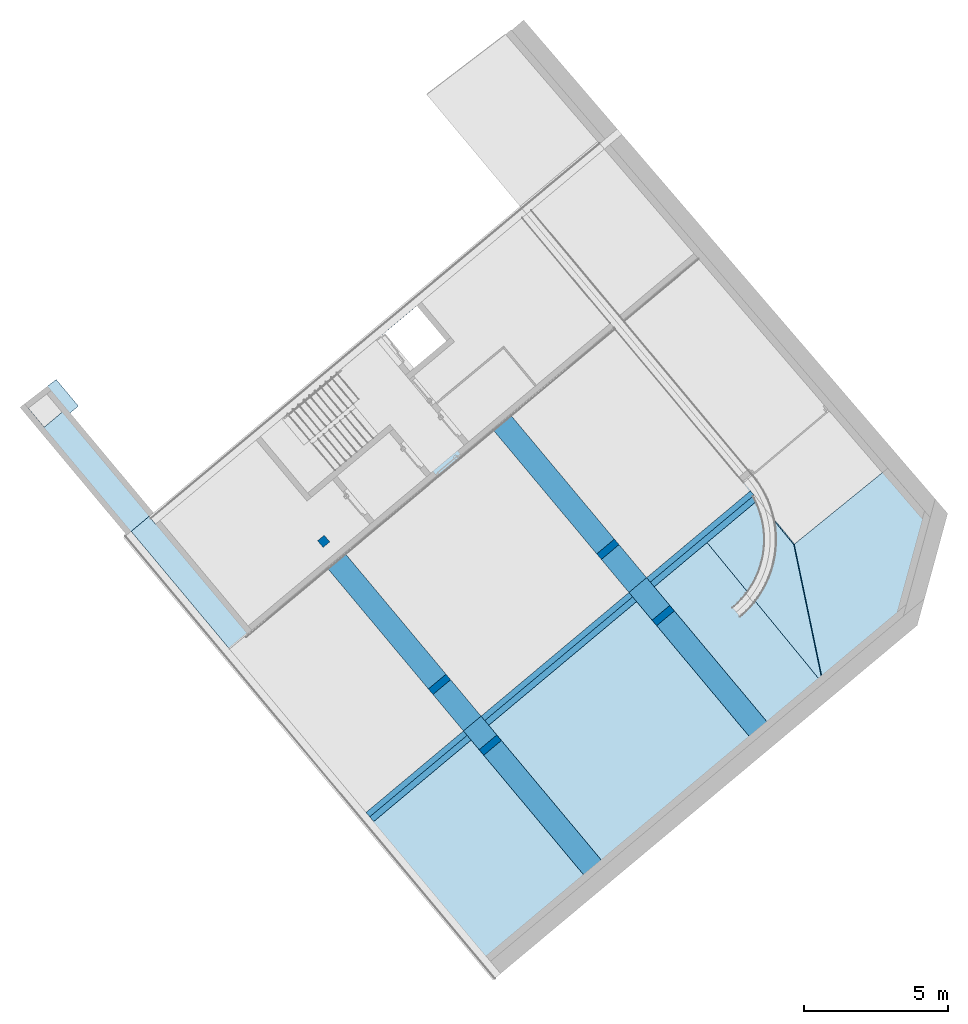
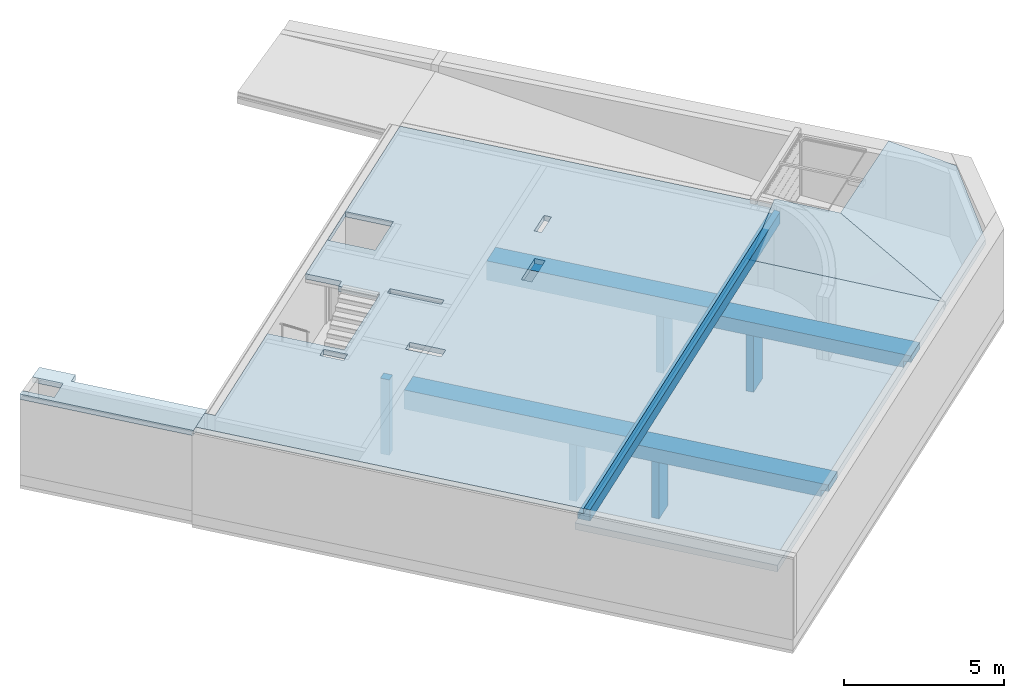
# One storey, part 3 of 14: 5 beams, 5 columns, 5 slabs.
"""IFC4 building model written with IfcOpenShell, lengths in metres."""

from ifc_helpers import new_model, entity, si_unit, converted_unit, derived_unit, direction, frame, origin_with_axes, place, context, subcontext, project, spatial, polygons, material, type_object, element, save


model = new_model("IFC4")

# Units and contexts
model_context = context("Model", 3, precision=1e-05, world=origin_with_axes(), true_north=direction((0.0, 1.0)))
body_context = subcontext(model_context, "Body", "Model", "MODEL_VIEW")
ifc_project = project(units=[si_unit("LENGTHUNIT", "METRE"), si_unit("AREAUNIT", "SQUARE_METRE"), si_unit("VOLUMEUNIT", "CUBIC_METRE"), converted_unit("PLANEANGLEUNIT", "DEGREE", entity("IfcPlaneAngleMeasure", 0.0174532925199), si_unit("PLANEANGLEUNIT", "RADIAN"), dimensions=[0, 0, 0, 0, 0, 0, 0]), converted_unit("TIMEUNIT", "Year", entity("IfcTimeMeasure", 31556926.0), si_unit("TIMEUNIT", "SECOND"), dimensions=[0, 0, 1, 0, 0, 0, 0]), si_unit("MASSUNIT", "GRAM", prefix="KILO"), si_unit("THERMODYNAMICTEMPERATUREUNIT", "DEGREE_CELSIUS"), si_unit("LUMINOUSINTENSITYUNIT", "LUMEN"), si_unit("ENERGYUNIT", "JOULE", prefix="MEGA"), derived_unit("THERMALCONDUCTANCEUNIT", [(si_unit("POWERUNIT", "WATT"), 1), (si_unit("LENGTHUNIT", "METRE"), -1), (si_unit("THERMODYNAMICTEMPERATUREUNIT", "KELVIN"), -1)]), derived_unit("SPECIFICHEATCAPACITYUNIT", [(si_unit("ENERGYUNIT", "JOULE"), 1), (si_unit("MASSUNIT", "GRAM", prefix="KILO"), -1), (si_unit("THERMODYNAMICTEMPERATUREUNIT", "KELVIN"), -1)]), derived_unit("MASSDENSITYUNIT", [(si_unit("MASSUNIT", "GRAM", prefix="KILO"), 1), (si_unit("VOLUMEUNIT", "CUBIC_METRE"), -1)])], contexts=[model_context])

# Site, building, storey
site_placement = place(None, frame((-0.00153261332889, -0.00661245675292, 0.0), z_axis=(0.0, 0.0, 1.0), x_axis=(1.0, 0.0, 0.0)))
site = spatial("IfcSite", under=ifc_project, at=site_placement, Name="Gelände", CompositionType="ELEMENT")
building_placement = place(site_placement, origin_with_axes())
building = spatial("IfcBuilding", under=site, at=building_placement, Name="Gebäude", CompositionType="ELEMENT")
storey_placement = place(building_placement, frame((0.0, 0.0, -3.3), z_axis=(0.0, 0.0, 1.0), x_axis=(1.0, 0.0, 0.0)))
storey = spatial("IfcBuildingStorey", under=building, at=storey_placement, Name="UG1", CompositionType="ELEMENT", Elevation=-3.3)

# Column
ifc_material_1 = material(Name="Stahlbeton")
column_type_1 = type_object("IfcColumnType", Name="Stahlbeton 300 x 300", PredefinedType="NOTDEFINED")
column_1_placement = place(storey_placement, frame((-1.63477953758, 18.8877031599, 0.0), z_axis=(0.0, 0.0, 1.0), x_axis=(-0.76736585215, -0.641209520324, 0.0)))
element("IfcColumn", 1, at=column_1_placement, inside=storey, type_object=column_type_1, material=ifc_material_1, Name="Stütze-002", PredefinedType="NOTDEFINED", context=body_context, shape_type="Tessellation", body=[
    polygons([(0.15, -0.15, 2.88), (-0.15, -0.15, 2.88), (-0.15, -0.15, 0.0), (0.15, -0.15, 0.0), (0.15, 0.15, 2.88), (-0.15, 0.15, 2.88), (-0.15, 0.15, 0.0), (0.15, 0.15, 0.0)], [[[1, 2, 3, 4]], [[5, 6, 2, 1]], [[2, 6, 7, 3]], [[8, 4, 3, 7]], [[5, 1, 4, 8]], [[6, 5, 8, 7]]], closed=True),
])

# Space
space_1_placement = place(storey_placement, frame((-11.8951769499, 23.5097960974, 0.0), z_axis=(0.0, 0.0, 1.0), x_axis=(0.641209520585, -0.767365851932, 0.0)))
space_1 = spatial("IfcSpace", under=storey, at=space_1_placement, CompositionType="ELEMENT", PredefinedType="NOTDEFINED")

# Columns
ifc_material_2 = material(Name="Stahlbeton Wand")
column_type_2 = type_object("IfcColumnType", Name="Stahlbeton Wand 250", PredefinedType="NOTDEFINED")
column_2_placement = place(space_1_placement, frame((16.6415270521, 4.41078857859, 0.0), z_axis=(0.0, 0.0, 1.0), x_axis=(0.0, 1.0, 0.0)))
element("IfcColumn", 2, at=column_2_placement, inside=space_1, type_object=column_type_2, material=ifc_material_2, Name="Wand-003", PredefinedType="NOTDEFINED", context=body_context, shape_type="Tessellation", body=[
    polygons([(0.0, 0.25, 0.0), (0.798804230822, 0.25, 0.0), (0.798804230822, 0.0, 0.0), (0.0, 0.0, 0.0), (0.0, 0.25, 2.1499999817), (0.798804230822, 0.25, 2.1499999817), (0.798804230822, 0.0, 2.1499999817), (0.0, 0.0, 2.1499999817)], [[[1, 2, 3, 4]], [[5, 6, 2, 1]], [[3, 2, 6, 7]], [[4, 3, 7, 8]], [[5, 1, 4, 8]], [[8, 7, 6, 5]]], closed=True),
])
for number, where, z_axis, x_axis, name in (
    (3, (16.7920264, 11.9059868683, 0.0), (0.0, 0.0, 1.0), (0.0, 1.0, 0.0), "Wand-005"),
    (4, (19.7904364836, 11.9059868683, 0.0), (0.0, 0.0, 1.0), (0.0, 1.0, 0.0), "Wand-004"),
):
    element("IfcColumn", number, at=place(space_1_placement, frame(where, z_axis=z_axis, x_axis=x_axis)), inside=space_1, type_object=column_type_2, material=ifc_material_2, Name=name, PredefinedType="NOTDEFINED", context=body_context, shape_type="Tessellation", body=[
        polygons([(0.0, 0.25, 0.0), (0.800458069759, 0.25, 0.0), (0.800458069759, 0.0, 0.0), (0.0, 0.0, 0.0), (0.0, 0.25, 2.15), (0.800458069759, 0.25, 2.15), (0.800458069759, 0.0, 2.15), (0.0, 0.0, 2.15)], [[[1, 2, 3, 4]], [[5, 6, 2, 1]], [[3, 2, 6, 7]], [[4, 3, 7, 8]], [[5, 1, 4, 8]], [[8, 7, 6, 5]]], closed=True),
    ])
column_3_placement = place(space_1_placement, frame((19.3918612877, 4.41078857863, 0.0), z_axis=(0.0, 0.0, 1.0), x_axis=(0.0, 1.0, 0.0)))
element("IfcColumn", 5, at=column_3_placement, inside=space_1, type_object=column_type_2, material=ifc_material_2, Name="Wand-002", PredefinedType="NOTDEFINED", context=body_context, shape_type="Tessellation", body=[
    polygons([(0.0, 0.25, 0.0), (0.798804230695, 0.25, 0.0), (0.798804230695, 0.0, 0.0), (0.0, 0.0, 0.0), (0.0, 0.25, 2.15), (0.798804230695, 0.25, 2.15), (0.798804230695, 0.0, 2.15), (0.0, 0.0, 2.15)], [[[1, 2, 3, 4]], [[5, 6, 2, 1]], [[3, 2, 6, 7]], [[4, 3, 7, 8]], [[5, 1, 4, 8]], [[8, 7, 6, 5]]], closed=True),
])

# Beams
beam_type_1 = type_object("IfcBeamType", Name="Stahlbeton 800 x 730", PredefinedType="NOTDEFINED")
beam_1_placement = place(space_1_placement, frame((18.2857067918, 12.3059868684, 2.88), z_axis=(0.0, 0.0, 1.0), x_axis=(0.0, 1.0, 0.0)))
element("IfcBeam", 6, at=beam_1_placement, inside=space_1, type_object=beam_type_1, material=ifc_material_1, Name="Träger-001", PredefinedType="NOTDEFINED", context=body_context, shape_type="Tessellation", body=[
    polygons([(0.4, 7.38630870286, -0.73), (0.4, 7.38630870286, 0.0), (0.4, 0.000254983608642, 0.0), (0.4, 0.000254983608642, -0.22999918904), (0.4, 0.0, -0.22999918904), (0.4, 0.0, -0.73), (-0.4, 7.38630870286, 0.0), (-0.4, 7.38630870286, -0.73), (-0.4, 0.0, 0.0), (0.00778880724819, 0.0, 0.0), (0.00778880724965, 0.0, -0.22999918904), (-0.4, 0.0, -0.73)], [[[1, 2, 3, 4, 5, 6]], [[7, 2, 1, 8]], [[7, 9, 10, 3, 2]], [[10, 11, 4, 3]], [[5, 4, 11]], [[6, 5, 11, 10, 9, 12]], [[1, 6, 12, 8]], [[8, 12, 9, 7]]], closed=True),
])
beam_2_placement = place(space_1_placement, frame((18.29061138, 4.81082034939, 2.88), z_axis=(0.0, 0.0, 1.0), x_axis=(0.0, 1.0, 0.0)))
element("IfcBeam", 7, at=beam_2_placement, inside=space_1, type_object=beam_type_1, material=ifc_material_1, Name="Träger-001", PredefinedType="NOTDEFINED", context=body_context, shape_type="Tessellation", body=[
    polygons([(0.4, 7.39121329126, -0.730000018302), (0.4, 7.39121329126, 0.0), (0.4, 0.000286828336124, 0.0), (0.4, 0.000286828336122, -0.22999918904), (0.4, 0.0, -0.22999918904), (0.4, 0.0, -0.730000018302), (-0.4, 7.39121329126, 0.0), (-0.4, 7.39121329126, -0.730000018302), (-0.4, 0.0, 0.0), (-0.0411941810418, 0.0, 0.0), (-0.041194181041, 0.0, -0.22999918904), (-0.4, 0.0, -0.730000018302)], [[[1, 2, 3, 4, 5, 6]], [[7, 2, 1, 8]], [[7, 9, 10, 3, 2]], [[10, 11, 4, 3]], [[5, 4, 11]], [[6, 5, 11, 10, 9, 12]], [[1, 6, 12, 8]], [[8, 12, 9, 7]]], closed=True),
])
beam_type_2 = type_object("IfcBeamType", Name="Stahlbeton 800 x 500", PredefinedType="NOTDEFINED")
beam_3_placement = place(space_1_placement, frame((18.29061138, 4.81082034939, 2.65), z_axis=(0.0, 0.0, 1.0), x_axis=(8.68124266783e-05, -0.999999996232, 0.0)))
element("IfcBeam", 8, at=beam_3_placement, inside=space_1, type_object=beam_type_2, material=ifc_material_1, Name="Träger-001", PredefinedType="NOTDEFINED", context=body_context, shape_type="Tessellation", body=[
    polygons([(0.4, 6.7439623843, 0.0), (0.4, 6.7439623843, -0.25), (-0.4, 6.7439623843, -0.25), (-0.4, 6.7439623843, 0.0), (0.4, 6.49399202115, -0.5), (0.4, 6.49399202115, -0.25), (0.4, 0.0, 0.0), (0.4, 0.0, -0.5), (-0.4, 6.49399035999, -0.25), (-0.4, 6.49399035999, -0.5), (-0.4, 0.0, -0.5), (-0.4, 0.0, 0.0)], [[[1, 2, 3, 4]], [[5, 6, 2, 1, 7, 8]], [[6, 9, 3, 2]], [[3, 9, 10, 11, 12, 4]], [[12, 7, 1, 4]], [[5, 10, 9, 6]], [[7, 12, 11, 8]], [[11, 10, 5, 8]]], closed=True),
])
beam_4_placement = place(space_1_placement, frame((18.2857067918, 12.3059868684, 2.65), z_axis=(0.0, 0.0, 1.0), x_axis=(8.68124274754e-05, -0.999999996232, 0.0)))
element("IfcBeam", 9, at=beam_4_placement, inside=space_1, type_object=beam_type_2, material=ifc_material_1, Name="Träger-002", PredefinedType="NOTDEFINED", context=body_context, shape_type="Tessellation", body=[
    polygons([(0.4, 6.74821629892, 0.0), (0.4, 6.74821629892, -0.25), (-0.4, 6.74821629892, -0.25), (-0.4, 6.74821629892, 0.0), (0.4, 6.49823037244, -0.5), (0.4, 6.49823037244, -0.25), (0.4, 0.0, 0.0), (0.4, 0.0, -0.5), (-0.4, 6.49822871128, -0.25), (-0.4, 6.49822871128, -0.5), (-0.4, 0.0, -0.5), (-0.4, 0.0, 0.0)], [[[1, 2, 3, 4]], [[5, 6, 2, 1, 7, 8]], [[6, 9, 3, 2]], [[3, 9, 10, 11, 12, 4]], [[12, 7, 1, 4]], [[5, 10, 9, 6]], [[7, 12, 11, 8]], [[11, 10, 5, 8]]], closed=True),
])
beam_type_3 = type_object("IfcBeamType", Name="Stahlbeton 415 x 430", PredefinedType="NOTDEFINED")
beam_5_placement = place(space_1_placement, frame((18.5013747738, -0.249999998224, 3.08000081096), z_axis=(0.0, 0.0, 1.0), x_axis=(0.999999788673, 0.000650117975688, 0.0)))
element("IfcBeam", 10, at=beam_5_placement, inside=space_1, type_object=beam_type_3, material=ifc_material_1, Name="Träger-001", PredefinedType="NOTDEFINED", context=body_context, shape_type="Tessellation", body=[
    polygons([(-0.0492401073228, 17.6582797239, -0.43), (-0.0492401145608, 17.6582797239, -0.20000081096), (-0.00720813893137, 17.6582797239, -0.20000081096), (-0.00720813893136, 17.6582797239, -8.10960177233e-07), (-0.0068952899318, 17.6582797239, 0.0), (-0.00689529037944, 17.6582797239, -0.43), (-0.2075, 17.6577492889, -0.43), (-0.2075, 17.657749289, -0.20000081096), (-0.00752762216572, 0.25000494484, -0.20000081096), (-0.2075, 16.8821398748, -0.20000081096), (-0.207245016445, 12.9561243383, -0.20000081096), (-0.2075, 12.9561245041, -0.20000081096), (-0.2075, 0.250134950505, -0.20000081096), (-0.00752762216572, 0.25000494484, -8.10960177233e-07), (0.2075, 0.249865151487, -8.10960177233e-07), (0.2075, 17.5557159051, 0.0), (0.136256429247, 17.5746731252, 0.0), (-0.00689525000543, 17.6041304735, 0.0), (-0.00689525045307, 17.6041304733, -0.43), (0.136256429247, 17.5746731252, -0.43), (0.2075, 17.5557159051, -0.43), (0.2075, 0.249865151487, -0.43), (-0.2075, 0.250134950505, -0.43), (-0.2075, 16.8821398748, -0.32000081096), (-0.2075, 12.9561245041, -0.32000081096), (-0.207245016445, 12.9561243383, -0.32000081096)], [[[1, 2, 3, 4, 5, 6]], [[7, 8, 2, 1]], [[9, 3, 2, 8, 10, 11, 12, 13]], [[9, 14, 4, 3]], [[5, 4, 14, 15, 16, 17, 18]], [[19, 6, 5, 18]], [[1, 6, 19, 20, 21, 22, 23, 7]], [[24, 10, 8, 7, 23, 13, 12, 25]], [[26, 11, 10, 24]], [[25, 12, 11, 26]], [[14, 9, 13, 23, 22, 15]], [[16, 15, 22, 21]], [[16, 21, 20, 17]], [[20, 19, 18, 17]], [[25, 26, 24]]], closed=True),
])

# Slab
ifc_material_3 = material(Name="Stahlbeton Decke Garage")
slab_type_1 = type_object("IfcSlabType", Name="Stahlbeton Decke Garage 200", PredefinedType="NOTDEFINED")
slab_1_placement = place(space_1_placement, frame((18.4823670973, 17.4084108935, 3.27691467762), z_axis=(0.0, 0.0, 1.0), x_axis=(0.999963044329, -0.00859709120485, 0.0)))
element("IfcSlab", 11, at=slab_1_placement, inside=space_1, type_object=slab_type_1, material=ifc_material_3, Name="Dach-001", PredefinedType="NOTDEFINED", context=body_context, shape_type="Tessellation", body=[
    polygons([(2.19444917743, -0.0267885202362, 0.00308532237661), (0.295632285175, 0.00372487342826, 0.00308532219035), (0.672225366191, 0.0084698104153, 0.00308532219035), (2.17953045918, 0.00847681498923, 0.00308532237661), (2.19954904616, -0.00245775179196, 0.00308532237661), (2.19942336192, -0.0267885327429, 0.00308532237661), (2.19444917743, -0.0267885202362, -0.00975022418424), (0.000554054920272, 0.0084666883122, 0.00308532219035), (0.000480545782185, 6.06760331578e-06, 0.0510817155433), (0.296006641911, 0.00372958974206, 0.0299584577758), (0.000623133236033, 7.86452100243e-06, 0.00308532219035), (2.1994233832, -0.0267885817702, 0.203085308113), (2.19955144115, -0.00199411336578, -0.000725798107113), (6.57144970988, -2.31334849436, -0.629154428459), (6.57182955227, -2.28868569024, -0.833013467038), (2.19942336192, -0.0267885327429, -0.0097502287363), (6.57144970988, -2.31334849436, -0.841989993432), (0.000247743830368, -0.0267885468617, 0.203085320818), (0.0216474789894, -2.27230535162, -0.827051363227), (0.02105233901, -2.27230162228, -0.626914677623), (0.0213375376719, -2.30719480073, -0.626914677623), (5.5894226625, -2.30719480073, -0.626914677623), (6.57287326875, -2.40887025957, -0.87675707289), (6.57227630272, -2.40886647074, -0.87675569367), (6.57286829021, -2.47727433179, -0.688818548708)], [[[1, 2, 3, 4, 5, 6]], [[7, 8, 2, 1]], [[9, 10, 3, 2, 11]], [[4, 3, 10, 12]], [[13, 5, 4, 12, 14, 15]], [[13, 16, 6, 5]], [[7, 1, 6, 16]], [[8, 7, 17]], [[11, 2, 8]], [[12, 10, 9, 18]], [[9, 11, 8, 19, 20, 21, 18]], [[22, 14, 12, 18, 21]], [[15, 14, 23]], [[17, 7, 16, 13, 15, 23, 24]], [[19, 8, 17]], [[22, 20, 19, 17, 14]], [[20, 22, 21]], [[25, 23, 14]], [[23, 25, 24]], [[25, 14, 17, 24]]], closed=True),
])

# Space
space_2_placement = place(storey_placement, frame((1.94844643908, 34.4071819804, 0.0), z_axis=(0.0, 0.0, 1.0), x_axis=(0.6411378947, -0.767425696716, 0.0)))
space_2 = spatial("IfcSpace", under=storey, at=space_2_placement, CompositionType="ELEMENT", PredefinedType="NOTDEFINED")

# Slabs
slab_2_placement = place(space_2_placement, frame((20.162955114, -0.191554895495, 3.27691467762), z_axis=(0.0, 0.0, 1.0), x_axis=(0.0148508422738, 0.999889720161, 0.0)))
element("IfcSlab", 12, at=slab_2_placement, inside=space_2, type_object=slab_type_1, material=ifc_material_3, Name="Dach-001", PredefinedType="NOTDEFINED", context=body_context, shape_type="Tessellation", body=[
    polygons([(4.22278656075, -2.25729859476, -0.226996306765), (4.15409130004, -1.44520999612e-08, 0.203606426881), (-0.0544116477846, -0.0049740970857, 0.202657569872), (-0.0564074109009, -0.00858539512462, 0.201968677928), (-2.31317416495, -4.39142628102, -0.634102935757), (1.33197501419, -4.3366299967, -0.623649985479), (4.22278656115, -2.25729859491, -0.430602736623), (4.15409130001, -1.40694904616e-08, -2.87352114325e-09), (-0.0284561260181, -0.00494342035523, -0.000943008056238), (-0.0544116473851, -0.00497409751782, 0.201593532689), (-2.28689475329, -4.39103123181, -0.837634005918), (1.33197501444, -4.33662999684, -0.827256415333)], [[[1, 2, 3, 4, 5, 6]], [[2, 1, 7, 8]], [[3, 2, 8, 9, 10]], [[4, 3, 10]], [[5, 4, 10, 9, 11]], [[6, 5, 11, 12]], [[1, 6, 12, 7]], [[8, 7, 12, 11, 9]]], closed=True),
])
slab_type_2 = type_object("IfcSlabType", Name="Stahlbeton Decke Garage 250", PredefinedType="NOTDEFINED")
slab_3_placement = place(space_1_placement, frame((18.2838532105, 15.1389856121, 2.4), z_axis=(0.0, 0.0, 1.0), x_axis=(0.999889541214, -0.0148628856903, 0.0)))
element("IfcSlab", 13, at=slab_3_placement, inside=space_1, type_object=slab_type_2, material=ifc_material_3, Name="Dach-001", PredefinedType="NOTDEFINED", context=body_context, shape_type="Tessellation", body=[
    polygons([(6.97867371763, -15.2869510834, 0.0), (6.75200344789, -0.0955109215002, 0.0), (6.75200344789, -0.0955109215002, 0.000158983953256), (6.75057833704, 0.0, 0.0349246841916), (6.75057833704, 0.0, 0.25), (6.97867371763, -15.2869510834, 0.25), (0.20064726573, 0.0, 0.0), (0.202121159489, -0.0949784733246, 0.0), (0.238793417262, -15.3871360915, 0.0), (0.0, 0.0, 0.0), (0.202121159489, -0.0949784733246, 0.0152911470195), (0.200647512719, 0.0, 0.0498633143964), (0.0, 0.0, 0.25), (0.238793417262, -15.3871360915, 0.25)], [[[1, 2, 3, 4, 5, 6]], [[7, 8, 2, 1, 9, 10]], [[11, 3, 2, 8]], [[11, 12, 4, 3]], [[4, 12, 7, 10, 13, 5]], [[6, 5, 13, 14]], [[6, 14, 9, 1]], [[8, 7, 12, 11]], [[14, 13, 10, 9]]], closed=True),
])
ifc_material_4 = material(Name="Stahlbeton Decke")
slab_type_3 = type_object("IfcSlabType", Name="Stahlbeton Decke 200", PredefinedType="NOTDEFINED")
slab_4_placement = place(storey_placement, frame((-8.51395356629, 19.0734375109, 3.08), z_axis=(0.0, 0.0, 1.0), x_axis=(1.0, 0.0, 0.0)))
element("IfcSlab", 14, at=slab_4_placement, inside=storey, type_object=slab_type_3, material=ifc_material_4, Name="Decke-005", PredefinedType="NOTDEFINED", context=body_context, shape_type="Tessellation", body=[
    polygons([(8.47710326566, -9.75506346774, -0.2), (21.943415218, 1.51181785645, -0.2), (21.943415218, 1.51181785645, 0.0), (8.47710326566, -9.75506346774, 0.0), (21.741745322, 1.81967592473, -0.2), (21.8486546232, 1.66606491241, -0.2), (0.191841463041, 0.160302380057, -0.2), (0.813788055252, 0.679999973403, -0.2), (1.03821138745, 0.411421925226, -0.2), (4.68289138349, 3.45690628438, -0.2), (6.32388414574, 1.49305239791, -0.2), (8.77184149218, 3.53856113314, -0.2), (7.89989841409, 4.58206954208, -0.2), (8.1154056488, 4.76212823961, -0.2), (7.34640143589, 5.6825277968, -0.2), (13.9258756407, 11.1803179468, -0.2), (15.2886586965, 9.5496424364, -0.2), (21.6202657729, 1.97199386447, -0.2), (21.6201061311, 1.97186047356, -0.2), (6.28903474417, 1.22284780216, -0.2), (5.77902880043, 1.83319610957, -0.2), (5.50617239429, 1.60519778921, -0.2), (6.01628626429, 0.99472032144, -0.2), (8.29737222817, 0.815713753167, -0.2), (7.9940574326, 0.562264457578, -0.2), (8.76343124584, -0.358481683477, -0.2), (9.06674604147, -0.105032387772, -0.2), (10.1198161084, 7.99498176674, -0.2), (8.85386013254, 6.93715123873, -0.2), (9.87674183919, 5.71183902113, -0.2), (11.1432789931, 6.77015518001, -0.2), (9.22699471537, 3.65831940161, -0.2), (9.03855095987, 3.5007912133, -0.2), (10.1935232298, 2.11858110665, -0.2), (10.381417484, 2.27543386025, -0.2), (14.1913965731, 2.55213565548, -0.2), (13.9666052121, 2.8211541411, -0.2), (13.02874317, 2.03747831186, -0.2), (13.2529145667, 1.76894290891, -0.2), (15.3941765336, 4.7091117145, -0.2), (14.7058685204, 4.13396278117, -0.2), (14.8650352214, 3.94348043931, -0.2), (15.5528871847, 4.51824829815, -0.2), (21.8486546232, 1.66606491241, 0.0), (21.741745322, 1.81967592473, 0.0), (21.6201061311, 1.97186047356, 0.0), (21.6202657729, 1.97199386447, 0.0), (15.2886586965, 9.5496424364, 0.0), (13.9258756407, 11.1803179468, 0.0), (7.34640143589, 5.6825277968, 0.0), (8.1154056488, 4.76212823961, 0.0), (7.89989841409, 4.58206954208, 0.0), (8.77184149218, 3.53856113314, 0.0), (6.32388414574, 1.49305239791, 0.0), (4.68289138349, 3.45690628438, 0.0), (1.03821138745, 0.411421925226, 0.0), (0.813788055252, 0.679999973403, 0.0), (0.191841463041, 0.160302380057, 0.0), (6.28903474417, 1.22284780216, 0.0), (6.01628626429, 0.99472032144, 0.0), (5.50617239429, 1.60519778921, 0.0), (5.77902880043, 1.83319610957, 0.0), (8.29737222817, 0.815713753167, 0.0), (9.06674604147, -0.105032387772, 0.0), (8.76343124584, -0.358481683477, 0.0), (7.9940574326, 0.562264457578, 0.0), (10.1198161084, 7.99498176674, 0.0), (11.1432789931, 6.77015518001, 0.0), (9.87674183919, 5.71183902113, 0.0), (8.85386013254, 6.93715123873, 0.0), (9.22699471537, 3.65831940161, 0.0), (10.381417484, 2.27543386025, 0.0), (10.1935232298, 2.11858110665, 0.0), (9.03855095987, 3.5007912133, 0.0), (14.1913965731, 2.55213565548, 0.0), (13.2529145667, 1.76894290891, 0.0), (13.02874317, 2.03747831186, 0.0), (13.9666052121, 2.8211541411, 0.0), (15.3941765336, 4.7091117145, 0.0), (15.5528871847, 4.51824829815, 0.0), (14.8650352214, 3.94348043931, 0.0), (14.7058685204, 4.13396278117, 0.0)], [[[1, 2, 3, 4]], [[5, 6, 2, 1, 7, 8, 9, 10, 11, 12, 13, 14, 15, 16, 17, 18, 19], [20, 21, 22, 23], [24, 25, 26, 27], [28, 29, 30, 31], [32, 33, 34, 35], [36, 37, 38, 39], [40, 41, 42, 43]], [[6, 44, 3, 2]], [[45, 46, 47, 48, 49, 50, 51, 52, 53, 54, 55, 56, 57, 58, 4, 3, 44], [59, 60, 61, 62], [63, 64, 65, 66], [67, 68, 69, 70], [71, 72, 73, 74], [75, 76, 77, 78], [79, 80, 81, 82]], [[7, 1, 4, 58]], [[5, 45, 44, 6]], [[8, 7, 58, 57]], [[57, 56, 9, 8]], [[9, 56, 55, 10]], [[11, 10, 55, 54]], [[54, 53, 12, 11]], [[53, 52, 13, 12]], [[52, 51, 14, 13]], [[51, 50, 15, 14]], [[15, 50, 49, 16]], [[49, 48, 17, 16]], [[48, 47, 18, 17]], [[19, 18, 47, 46]], [[19, 46, 45, 5]], [[59, 62, 21, 20]], [[62, 61, 22, 21]], [[61, 60, 23, 22]], [[60, 59, 20, 23]], [[63, 66, 25, 24]], [[66, 65, 26, 25]], [[65, 64, 27, 26]], [[64, 63, 24, 27]], [[67, 70, 29, 28]], [[70, 69, 30, 29]], [[69, 68, 31, 30]], [[68, 67, 28, 31]], [[71, 74, 33, 32]], [[74, 73, 34, 33]], [[73, 72, 35, 34]], [[72, 71, 32, 35]], [[75, 78, 37, 36]], [[78, 77, 38, 37]], [[77, 76, 39, 38]], [[76, 75, 36, 39]], [[79, 82, 41, 40]], [[82, 81, 42, 41]], [[81, 80, 43, 42]], [[80, 79, 40, 43]]], closed=True),
])
slab_5_placement = place(storey_placement, frame((-12.0195879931, 23.6664224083, 3.08), z_axis=(0.0, 0.0, 1.0), x_axis=(1.0, 0.0, 0.0)))
element("IfcSlab", 15, at=slab_5_placement, inside=storey, type_object=slab_type_3, material=ifc_material_4, Name="Decke-005", PredefinedType="NOTDEFINED", context=body_context, shape_type="Tessellation", body=[
    polygons([(0.0, 0.0, 0.0), (0.0, 0.0, -0.2), (-0.162612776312, -0.125041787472, -0.2), (-0.162612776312, -0.125041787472, 0.0), (0.678979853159, -0.812567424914, 0.0), (0.678979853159, -0.812567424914, -0.2), (1.29711925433, -0.29605125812, -0.2), (0.639096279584, 0.4914360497, -0.2), (1.09431297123, 0.84147702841, -0.2), (1.86540376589, -0.0818255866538, -0.2), (1.57883429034, -0.321282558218, -0.2), (4.47289572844, -3.7847431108, -0.2), (3.54400273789, -4.56092442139, -0.2), (3.54400273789, -4.56092442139, 0.0), (4.47289572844, -3.7847431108, 0.0), (1.57883429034, -0.321282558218, 0.0), (1.86540376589, -0.0818255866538, 0.0), (1.09431297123, 0.84147702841, 0.0), (0.639096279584, 0.4914360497, 0.0), (1.29711925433, -0.29605125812, 0.0)], [[[1, 2, 3, 4]], [[5, 6, 2, 1]], [[3, 2, 6, 7, 8, 9, 10, 11, 12, 13]], [[4, 3, 13, 14]], [[5, 1, 4, 14, 15, 16, 17, 18, 19, 20]], [[20, 7, 6, 5]], [[19, 8, 7, 20]], [[18, 9, 8, 19]], [[17, 10, 9, 18]], [[16, 11, 10, 17]], [[15, 12, 11, 16]], [[14, 13, 12, 15]]], closed=True),
])

save(model, "model.ifc")
